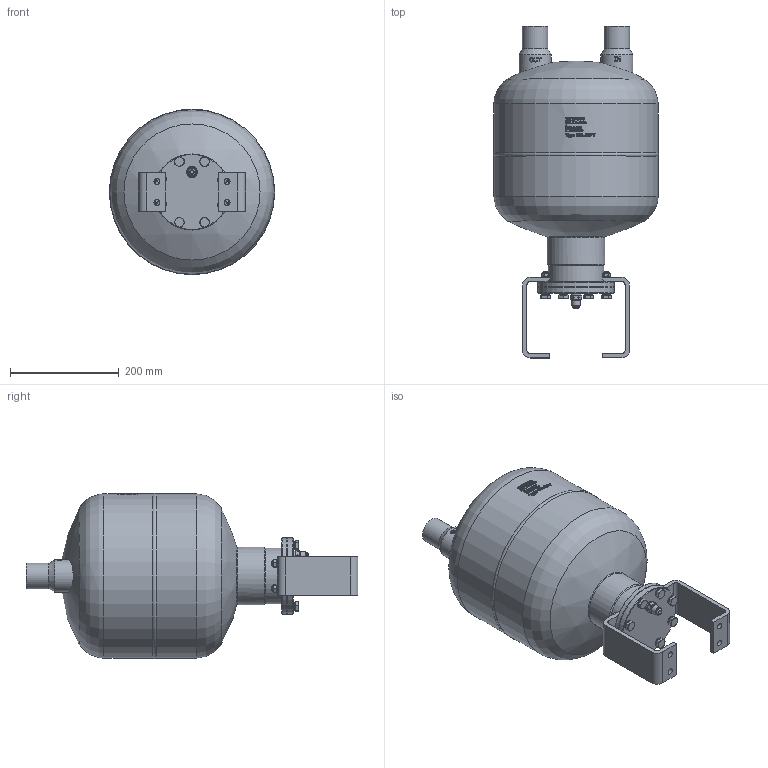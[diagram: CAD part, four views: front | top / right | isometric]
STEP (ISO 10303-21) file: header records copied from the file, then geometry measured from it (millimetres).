
FILE_DESCRIPTION(/* description */ (''),/* implementation_level */ '2;1');
FILE_NAME(/* name */ 'P:\OS\OS-42FY\OS-42FY.stp',/* time_stamp */ '2017-10-04T08:07:37+02:00',/* author */ ('neufeld'),/* organization */ (''),/* preprocessor_version */ 'ST-DEVELOPER v16.1',/* originating_system */ 'Autodesk Inventor 2016',/* authorisation */ '');
FILE_SCHEMA (('AUTOMOTIVE_DESIGN { 1 0 10303 214 3 1 1 }'));
Length unit declared in the file: millimetre
Products named in the file (3): OS-42FY_1; OS-42FY; OS-42FY_2
Assembly tree (2 placements, depth 2):
  OS-42FY_2
    OS-42FY_1
    OS-42FY
Bounding box: 304.09 x 610.35 x 304.09 mm (x, y, z)
Volume: 21348904.6 mm3; surface area: 545565 mm2
Topology: 1 solids, 1 shells, 1334 faces, 3531 edges, 2313 vertices
Faces by surface type: plane 691, bspline 337, cylinder 185, cone 113, torus 6, sphere 2
Full cylindrical faces by diameter (mm): 7.2 x1, 8 x8, 8.376 x4, 8.5 x4, 9.188 x8, 10 x12, 10.5 x8, 11 x4, 13.5 x1, 15.4 x8, 15.7 x1, 19 x1, 42.2 x2, 47 x2, 59.5 x2, 102 x1, 106 x1, 107.2 x1, 107.9 x1, 135 x1, 140 x2, 302 x2
Entity records: 47887 total; most frequent: CARTESIAN_POINT 17410, ORIENTED_EDGE 6734, DIRECTION 5499, EDGE_CURVE 3367, VERTEX_POINT 2268, AXIS2_PLACEMENT_3D 2013, EDGE_LOOP 1617, LINE 1473
